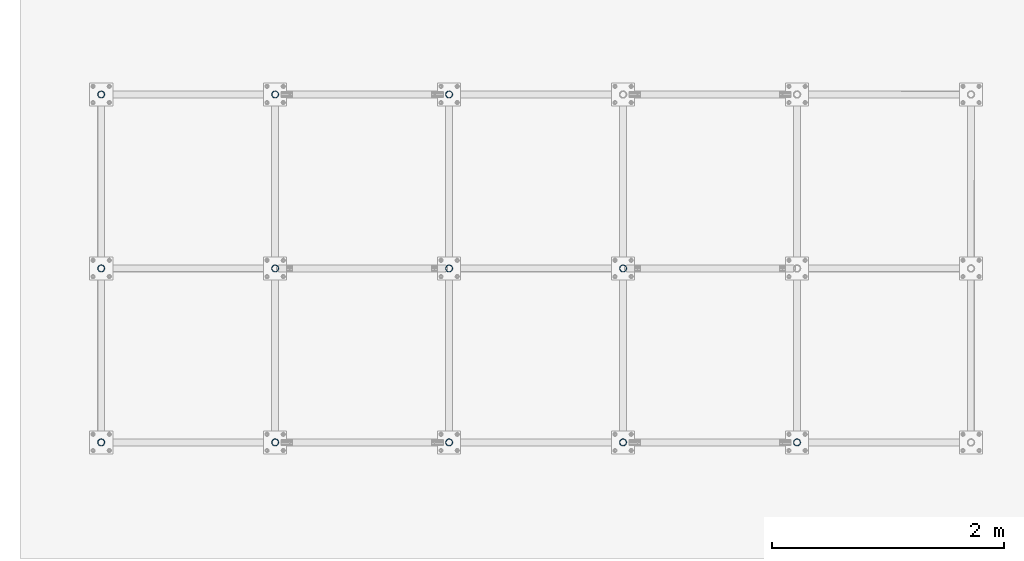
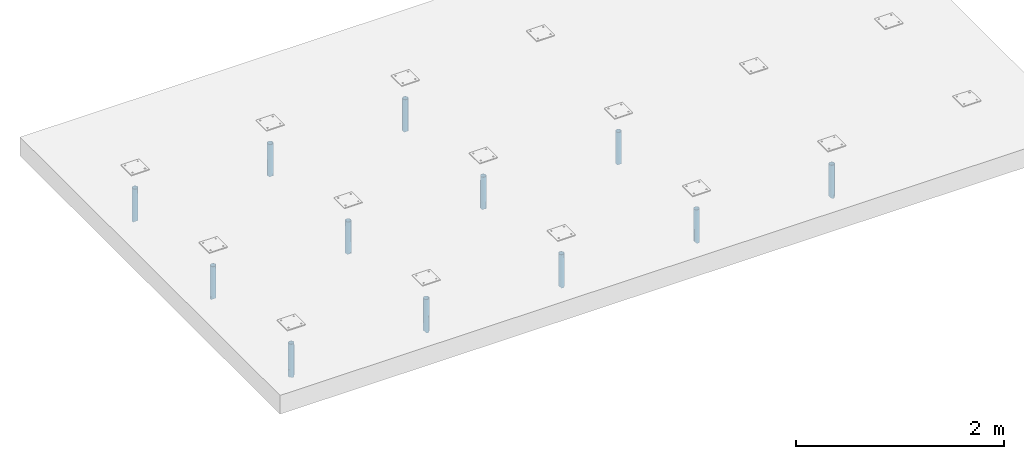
# One storey, part 1 of 30: 12 columns, 24 openings.
"""IFC2X3 building model written with IfcOpenShell, lengths in millimetres."""

from ifc_helpers import new_model, entity, si_unit, converted_unit, frame, frame_2d, origin, origin_with_axes, origin_2d, origin_2d_with_axis, place, context, project, spatial, circle_curve, hollow_circle, outline, extrude, clip, halfspace, material, element, save


model = new_model("IFC2X3")

# Units and contexts
model_context = context("Model", 3, precision=1e-09, world=origin_with_axes())
ifc_project = project(units=[si_unit("LENGTHUNIT", "METRE", prefix="MILLI"), si_unit("AREAUNIT", "SQUARE_METRE"), si_unit("VOLUMEUNIT", "CUBIC_METRE"), converted_unit("PLANEANGLEUNIT", "DEGREE", entity("IfcPlaneAngleMeasure", 0.01745329), si_unit("PLANEANGLEUNIT", "RADIAN"), dimensions=[0, 0, 0, 0, 0, 0, 0])], contexts=[model_context])

# Site, building, storey
site_placement = place(None, origin_with_axes())
site = spatial("IfcSite", under=ifc_project, at=site_placement, Name="M?nsinger Stra?e, 81477 M?nchen", CompositionType="ELEMENT")
building_placement = place(site_placement, origin_with_axes())
building = spatial("IfcBuilding", under=site, at=building_placement, Name="Struktur 1", CompositionType="ELEMENT")
storey_placement = place(building_placement, origin_with_axes())
storey = spatial("IfcBuildingStorey", under=building, at=storey_placement, Name="Default Storey", CompositionType="ELEMENT", Elevation=0.0)

# Column, openings
ifc_material = material(Name="S235JR")
column_1_placement = place(None, frame((1406.315117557, 1491.2632594, 6067.361461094), z_axis=(0.0, 0.0, -1.0), x_axis=(0.0, -1.0, 0.0)))
column_1 = element("IfcColumn", 1, at=column_1_placement, inside=storey, material=ifc_material, Name="-", ObjectType="-", context=model_context, shape_type="Clipping", body=[
    clip(extrude(hollow_circle(Radius=30.15, WallThickness=2.6, at=origin_2d()), origin(), (0.0, 0.0, -1.0), 447.638538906), halfspace(frame((1491.2632594, 1406.315117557, -54.889538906), z_axis=(0.0, 0.0, -1.0), x_axis=(0.0, -1.0, 0.0)), True)),
])
opening_1_placement = place(column_1_placement, frame((21.35, 0.0, -42.638538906), z_axis=(-1.0, 0.0, 0.0), x_axis=(0.0, 1.0, 0.0)))
element("IfcOpeningElement", 2, at=opening_1_placement, cuts=column_1, ObjectType="Opening", context=model_context, shape_type="SweptSolid", body=[
    extrude(outline(circle_curve(origin_2d_with_axis(), 30.151)), origin(), (0.0, 0.0, 1.0), 151.6),
])
opening_2_placement = place(column_1_placement, frame((0.0, 21.35, -42.638538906), z_axis=(0.0, -1.0, 0.0), x_axis=(-1.0, 0.0, 0.0)))
element("IfcOpeningElement", 3, at=opening_2_placement, cuts=column_1, ObjectType="Opening", context=model_context, shape_type="SweptSolid", body=[
    extrude(outline(circle_curve(origin_2d_with_axis(), 30.151)), origin(), (0.0, 0.0, 1.0), 151.6),
])

column_2_placement = place(None, frame((2906.315117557, 1491.2632594, 6067.361461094), z_axis=(0.0, 0.0, 1.0), x_axis=(-1.0, 0.0, 0.0)))
column_2 = element("IfcColumn", 4, at=column_2_placement, inside=storey, material=ifc_material, Name="-", ObjectType="-", context=model_context, shape_type="Clipping", body=[
    clip(extrude(hollow_circle(Radius=30.15, WallThickness=2.6, at=origin_2d()), origin(), (0.0, 0.0, 1.0), 447.638538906), halfspace(frame((2906.315117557, 1491.2632594, 54.889538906), z_axis=(0.0, 0.0, 1.0), x_axis=(-1.0, 0.0, 0.0)), True)),
])
opening_3_placement = place(column_2_placement, frame((130.25, -30.151, 42.638538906), z_axis=(1.0, 0.0, 0.0), x_axis=(0.0, 1.0, 0.0)))
element("IfcOpeningElement", 5, at=opening_3_placement, cuts=column_2, ObjectType="Opening", context=model_context, shape_type="SweptSolid", body=[
    extrude(outline(circle_curve(frame_2d((30.151, 0.0), x_axis=(1.0, 0.0)), 30.151)), origin(), (0.0, 0.0, -1.0), 260.5),
])
opening_4_placement = place(column_2_placement, frame((30.151, 20.0, 42.638538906), z_axis=(0.0, 1.0, 0.0), x_axis=(-1.0, 0.0, 0.0)))
element("IfcOpeningElement", 6, at=opening_4_placement, cuts=column_2, ObjectType="Opening", context=model_context, shape_type="SweptSolid", body=[
    extrude(outline(circle_curve(frame_2d((30.151, 0.0), x_axis=(1.0, 0.0)), 30.151)), origin(), (0.0, 0.0, -1.0), 150.25),
])

column_3_placement = place(None, frame((2906.315117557, 4491.2632594, 6067.361461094), z_axis=(0.0, 0.0, -1.0), x_axis=(-1.0, 0.0, 0.0)))
column_3 = element("IfcColumn", 7, at=column_3_placement, inside=storey, material=ifc_material, Name="-", ObjectType="-", context=model_context, shape_type="Clipping", body=[
    clip(extrude(hollow_circle(Radius=30.15, WallThickness=2.6, at=origin_2d()), origin(), (0.0, 0.0, -1.0), 447.638538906), halfspace(frame((2906.315117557, -4491.2632594, -54.889538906), z_axis=(0.0, 0.0, -1.0), x_axis=(-1.0, 0.0, 0.0)), True)),
])
opening_5_placement = place(column_3_placement, frame((130.25, 0.0, -42.638538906), z_axis=(-1.0, 0.0, 0.0), x_axis=(0.0, 1.0, 0.0)))
element("IfcOpeningElement", 8, at=opening_5_placement, cuts=column_3, ObjectType="Opening", context=model_context, shape_type="SweptSolid", body=[
    extrude(outline(circle_curve(origin_2d_with_axis(), 30.151)), origin(), (0.0, 0.0, 1.0), 260.5),
])
opening_6_placement = place(column_3_placement, frame((0.0, 20.0, -42.638538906), z_axis=(0.0, -1.0, 0.0), x_axis=(-1.0, 0.0, 0.0)))
element("IfcOpeningElement", 9, at=opening_6_placement, cuts=column_3, ObjectType="Opening", context=model_context, shape_type="SweptSolid", body=[
    extrude(outline(circle_curve(origin_2d_with_axis(), 30.151)), origin(), (0.0, 0.0, 1.0), 150.25),
])

column_4_placement = place(None, frame((4406.315117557, 1491.2632594, 6067.361461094), z_axis=(0.0, 0.0, 1.0), x_axis=(-1.0, 0.0, 0.0)))
column_4 = element("IfcColumn", 10, at=column_4_placement, inside=storey, material=ifc_material, Name="-", ObjectType="-", context=model_context, shape_type="Clipping", body=[
    clip(extrude(hollow_circle(Radius=30.15, WallThickness=2.6, at=origin_2d()), origin(), (0.0, 0.0, 1.0), 447.638538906), halfspace(frame((4406.315117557, 1491.2632594, 54.889538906), z_axis=(0.0, 0.0, 1.0), x_axis=(-1.0, 0.0, 0.0)), True)),
])
opening_7_placement = place(column_4_placement, frame((130.25, -30.151, 42.638538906), z_axis=(1.0, 0.0, 0.0), x_axis=(0.0, 1.0, 0.0)))
element("IfcOpeningElement", 11, at=opening_7_placement, cuts=column_4, ObjectType="Opening", context=model_context, shape_type="SweptSolid", body=[
    extrude(outline(circle_curve(frame_2d((30.151, 0.0), x_axis=(1.0, 0.0)), 30.151)), origin(), (0.0, 0.0, -1.0), 260.5),
])
opening_8_placement = place(column_4_placement, frame((30.151, 20.0, 42.638538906), z_axis=(0.0, 1.0, 0.0), x_axis=(-1.0, 0.0, 0.0)))
element("IfcOpeningElement", 12, at=opening_8_placement, cuts=column_4, ObjectType="Opening", context=model_context, shape_type="SweptSolid", body=[
    extrude(outline(circle_curve(frame_2d((30.151, 0.0), x_axis=(1.0, 0.0)), 30.151)), origin(), (0.0, 0.0, -1.0), 150.25),
])

column_5_placement = place(None, frame((4406.315117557, 4491.2632594, 6067.361461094), z_axis=(0.0, 0.0, -1.0), x_axis=(-1.0, 0.0, 0.0)))
column_5 = element("IfcColumn", 13, at=column_5_placement, inside=storey, material=ifc_material, Name="-", ObjectType="-", context=model_context, shape_type="Clipping", body=[
    clip(extrude(hollow_circle(Radius=30.15, WallThickness=2.6, at=origin_2d()), origin(), (0.0, 0.0, -1.0), 447.638538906), halfspace(frame((4406.315117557, -4491.2632594, -54.889538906), z_axis=(0.0, 0.0, -1.0), x_axis=(-1.0, 0.0, 0.0)), True)),
])
opening_9_placement = place(column_5_placement, frame((130.25, 0.0, -42.638538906), z_axis=(-1.0, 0.0, 0.0), x_axis=(0.0, 1.0, 0.0)))
element("IfcOpeningElement", 14, at=opening_9_placement, cuts=column_5, ObjectType="Opening", context=model_context, shape_type="SweptSolid", body=[
    extrude(outline(circle_curve(origin_2d_with_axis(), 30.151)), origin(), (0.0, 0.0, 1.0), 260.5),
])
opening_10_placement = place(column_5_placement, frame((0.0, 20.0, -42.638538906), z_axis=(0.0, -1.0, 0.0), x_axis=(-1.0, 0.0, 0.0)))
element("IfcOpeningElement", 15, at=opening_10_placement, cuts=column_5, ObjectType="Opening", context=model_context, shape_type="SweptSolid", body=[
    extrude(outline(circle_curve(origin_2d_with_axis(), 30.151)), origin(), (0.0, 0.0, 1.0), 150.25),
])

column_6_placement = place(None, frame((4406.315117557, 2991.2632594, 6067.361461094), z_axis=(0.0, 0.0, -1.0), x_axis=(0.0, 1.0, 0.0)))
column_6 = element("IfcColumn", 16, at=column_6_placement, inside=storey, material=ifc_material, Name="-", ObjectType="-", context=model_context, shape_type="Clipping", body=[
    clip(extrude(hollow_circle(Radius=30.15, WallThickness=2.6, at=origin_2d()), origin(), (0.0, 0.0, -1.0), 447.638538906), halfspace(frame((-2991.2632594, -4406.315117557, -54.889538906), z_axis=(0.0, 0.0, -1.0), x_axis=(0.0, 1.0, 0.0)), True)),
])
opening_11_placement = place(column_6_placement, frame((-130.25, 0.0, -42.638538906), z_axis=(1.0, 0.0, 0.0), x_axis=(0.0, -1.0, 0.0)))
element("IfcOpeningElement", 17, at=opening_11_placement, cuts=column_6, ObjectType="Opening", context=model_context, shape_type="SweptSolid", body=[
    extrude(outline(circle_curve(origin_2d_with_axis(), 30.151)), origin(), (0.0, 0.0, 1.0), 260.5),
])
opening_12_placement = place(column_6_placement, frame((0.0, -130.25, -42.638538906), z_axis=(0.0, 1.0, 0.0), x_axis=(1.0, 0.0, 0.0)))
element("IfcOpeningElement", 18, at=opening_12_placement, cuts=column_6, ObjectType="Opening", context=model_context, shape_type="SweptSolid", body=[
    extrude(outline(circle_curve(origin_2d_with_axis(), 30.151)), origin(), (0.0, 0.0, 1.0), 260.5),
])

column_7_placement = place(None, frame((5906.315117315, 2991.2632594, 6067.361461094), z_axis=(0.0, 0.0, 1.0), x_axis=(0.0, 1.0, 0.0)))
column_7 = element("IfcColumn", 19, at=column_7_placement, inside=storey, material=ifc_material, Name="-", ObjectType="-", context=model_context, shape_type="Clipping", body=[
    clip(extrude(hollow_circle(Radius=30.15, WallThickness=2.6, at=origin_2d()), origin(), (0.0, 0.0, 1.0), 447.638538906), halfspace(frame((-2991.2632594, 5906.315117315, 54.889538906), z_axis=(0.0, 0.0, 1.0), x_axis=(0.0, -1.0, 0.0)), True)),
])
opening_13_placement = place(column_7_placement, frame((-130.25, 30.151, 42.638538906), z_axis=(-1.0, 0.0, 0.0), x_axis=(0.0, -1.0, 0.0)))
element("IfcOpeningElement", 20, at=opening_13_placement, cuts=column_7, ObjectType="Opening", context=model_context, shape_type="SweptSolid", body=[
    extrude(outline(circle_curve(frame_2d((30.151, 0.0), x_axis=(1.0, 0.0)), 30.151)), origin(), (0.0, 0.0, -1.0), 260.5),
])
opening_14_placement = place(column_7_placement, frame((-30.151, -130.25, 42.638538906), z_axis=(0.0, -1.0, 0.0), x_axis=(1.0, 0.0, 0.0)))
element("IfcOpeningElement", 21, at=opening_14_placement, cuts=column_7, ObjectType="Opening", context=model_context, shape_type="SweptSolid", body=[
    extrude(outline(circle_curve(frame_2d((30.151, 0.0), x_axis=(1.0, 0.0)), 30.151)), origin(), (0.0, 0.0, -1.0), 260.5),
])

column_8_placement = place(None, frame((5906.315117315, 1491.2632594, 6067.361461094), z_axis=(0.0, 0.0, -1.0), x_axis=(1.0, 0.0, 0.0)))
column_8 = element("IfcColumn", 22, at=column_8_placement, inside=storey, material=ifc_material, Name="-", ObjectType="-", context=model_context, shape_type="Clipping", body=[
    clip(extrude(hollow_circle(Radius=30.15, WallThickness=2.6, at=origin_2d()), origin(), (0.0, 0.0, -1.0), 447.638538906), halfspace(frame((-5906.315117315, 1491.2632594, -54.889538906), z_axis=(0.0, 0.0, -1.0), x_axis=(1.0, 0.0, 0.0)), True)),
])
opening_15_placement = place(column_8_placement, frame((130.25, 0.0, -42.638538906), z_axis=(-1.0, 0.0, 0.0), x_axis=(0.0, 1.0, 0.0)))
element("IfcOpeningElement", 23, at=opening_15_placement, cuts=column_8, ObjectType="Opening", context=model_context, shape_type="SweptSolid", body=[
    extrude(outline(circle_curve(origin_2d_with_axis(), 30.151)), origin(), (0.0, 0.0, 1.0), 260.5),
])
opening_16_placement = place(column_8_placement, frame((0.0, 20.0, -42.638538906), z_axis=(0.0, -1.0, 0.0), x_axis=(-1.0, 0.0, 0.0)))
element("IfcOpeningElement", 24, at=opening_16_placement, cuts=column_8, ObjectType="Opening", context=model_context, shape_type="SweptSolid", body=[
    extrude(outline(circle_curve(origin_2d_with_axis(), 30.151)), origin(), (0.0, 0.0, 1.0), 150.25),
])

column_9_placement = place(None, frame((7406.315117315, 1491.2632594, 6067.361461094), z_axis=(0.0, 0.0, -1.0), x_axis=(1.0, 0.0, 0.0)))
column_9 = element("IfcColumn", 25, at=column_9_placement, inside=storey, material=ifc_material, Name="-", ObjectType="-", context=model_context, shape_type="Clipping", body=[
    clip(extrude(hollow_circle(Radius=30.15, WallThickness=2.6, at=origin_2d()), origin(), (0.0, 0.0, -1.0), 447.638538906), halfspace(frame((-7406.315117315, 1491.2632594, -54.889538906), z_axis=(0.0, 0.0, -1.0), x_axis=(1.0, 0.0, 0.0)), True)),
])
opening_17_placement = place(column_9_placement, frame((130.25, 0.0, -42.638538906), z_axis=(-1.0, 0.0, 0.0), x_axis=(0.0, 1.0, 0.0)))
element("IfcOpeningElement", 26, at=opening_17_placement, cuts=column_9, ObjectType="Opening", context=model_context, shape_type="SweptSolid", body=[
    extrude(outline(circle_curve(origin_2d_with_axis(), 30.151)), origin(), (0.0, 0.0, 1.0), 260.5),
])
opening_18_placement = place(column_9_placement, frame((0.0, 20.0, -42.638538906), z_axis=(0.0, -1.0, 0.0), x_axis=(-1.0, 0.0, 0.0)))
element("IfcOpeningElement", 27, at=opening_18_placement, cuts=column_9, ObjectType="Opening", context=model_context, shape_type="SweptSolid", body=[
    extrude(outline(circle_curve(origin_2d_with_axis(), 30.151)), origin(), (0.0, 0.0, 1.0), 150.25),
])

column_10_placement = place(None, frame((2906.315117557, 2991.2632594, 6067.361461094), z_axis=(0.0, 0.0, -1.0), x_axis=(0.0, 1.0, 0.0)))
column_10 = element("IfcColumn", 28, at=column_10_placement, inside=storey, material=ifc_material, Name="-", ObjectType="-", context=model_context, shape_type="Clipping", body=[
    clip(extrude(hollow_circle(Radius=30.15, WallThickness=2.6, at=origin_2d()), origin(), (0.0, 0.0, -1.0), 447.638538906), halfspace(frame((-2991.2632594, -2906.315117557, -54.889538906), z_axis=(0.0, 0.0, -1.0), x_axis=(0.0, 1.0, 0.0)), True)),
])
opening_19_placement = place(column_10_placement, frame((-130.25, 0.0, -42.638538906), z_axis=(1.0, 0.0, 0.0), x_axis=(0.0, -1.0, 0.0)))
element("IfcOpeningElement", 29, at=opening_19_placement, cuts=column_10, ObjectType="Opening", context=model_context, shape_type="SweptSolid", body=[
    extrude(outline(circle_curve(origin_2d_with_axis(), 30.151)), origin(), (0.0, 0.0, 1.0), 260.5),
])
opening_20_placement = place(column_10_placement, frame((0.0, -130.25, -42.638538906), z_axis=(0.0, 1.0, 0.0), x_axis=(1.0, 0.0, 0.0)))
element("IfcOpeningElement", 30, at=opening_20_placement, cuts=column_10, ObjectType="Opening", context=model_context, shape_type="SweptSolid", body=[
    extrude(outline(circle_curve(origin_2d_with_axis(), 30.151)), origin(), (0.0, 0.0, 1.0), 260.5),
])

column_11_placement = place(None, frame((1406.315117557, 4491.2632594, 6067.361461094), z_axis=(0.0, 0.0, 1.0), x_axis=(0.0, 1.0, 0.0)))
column_11 = element("IfcColumn", 31, at=column_11_placement, inside=storey, material=ifc_material, Name="-", ObjectType="-", context=model_context, shape_type="Clipping", body=[
    clip(extrude(hollow_circle(Radius=30.15, WallThickness=2.6, at=origin_2d()), origin(), (0.0, 0.0, 1.0), 447.638538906), halfspace(frame((-4491.2632594, 1406.315117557, 54.889538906), z_axis=(0.0, 0.0, 1.0), x_axis=(0.0, -1.0, 0.0)), True)),
])
opening_21_placement = place(column_11_placement, frame((21.35, -30.151, 42.638538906), z_axis=(1.0, 0.0, 0.0), x_axis=(0.0, 1.0, 0.0)))
element("IfcOpeningElement", 32, at=opening_21_placement, cuts=column_11, ObjectType="Opening", context=model_context, shape_type="SweptSolid", body=[
    extrude(outline(circle_curve(frame_2d((30.151, 0.0), x_axis=(1.0, 0.0)), 30.151)), origin(), (0.0, 0.0, -1.0), 151.6),
])
opening_22_placement = place(column_11_placement, frame((30.151, 21.35, 42.638538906), z_axis=(0.0, 1.0, 0.0), x_axis=(-1.0, 0.0, 0.0)))
element("IfcOpeningElement", 33, at=opening_22_placement, cuts=column_11, ObjectType="Opening", context=model_context, shape_type="SweptSolid", body=[
    extrude(outline(circle_curve(frame_2d((30.151, 0.0), x_axis=(1.0, 0.0)), 30.151)), origin(), (0.0, 0.0, -1.0), 151.6),
])

column_12_placement = place(None, frame((1406.315117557, 2991.2632594, 6067.361461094), z_axis=(0.0, 0.0, 1.0), x_axis=(0.0, 1.0, 0.0)))
column_12 = element("IfcColumn", 34, at=column_12_placement, inside=storey, material=ifc_material, Name="-", ObjectType="-", context=model_context, shape_type="Clipping", body=[
    clip(extrude(hollow_circle(Radius=30.15, WallThickness=2.6, at=origin_2d()), origin(), (0.0, 0.0, 1.0), 447.638538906), halfspace(frame((-2991.2632594, 1406.315117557, 54.889538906), z_axis=(0.0, 0.0, 1.0), x_axis=(0.0, -1.0, 0.0)), True)),
])
opening_23_placement = place(column_12_placement, frame((130.25, -30.151, 42.638538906), z_axis=(1.0, 0.0, 0.0), x_axis=(0.0, 1.0, 0.0)))
element("IfcOpeningElement", 35, at=opening_23_placement, cuts=column_12, ObjectType="Opening", context=model_context, shape_type="SweptSolid", body=[
    extrude(outline(circle_curve(frame_2d((30.151, 0.0), x_axis=(1.0, 0.0)), 30.151)), origin(), (0.0, 0.0, -1.0), 260.5),
])
opening_24_placement = place(column_12_placement, frame((30.151, 20.0, 42.638538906), z_axis=(0.0, 1.0, 0.0), x_axis=(-1.0, 0.0, 0.0)))
element("IfcOpeningElement", 36, at=opening_24_placement, cuts=column_12, ObjectType="Opening", context=model_context, shape_type="SweptSolid", body=[
    extrude(outline(circle_curve(frame_2d((30.151, 0.0), x_axis=(1.0, 0.0)), 30.151)), origin(), (0.0, 0.0, -1.0), 150.25),
])

save(model, "model.ifc")
